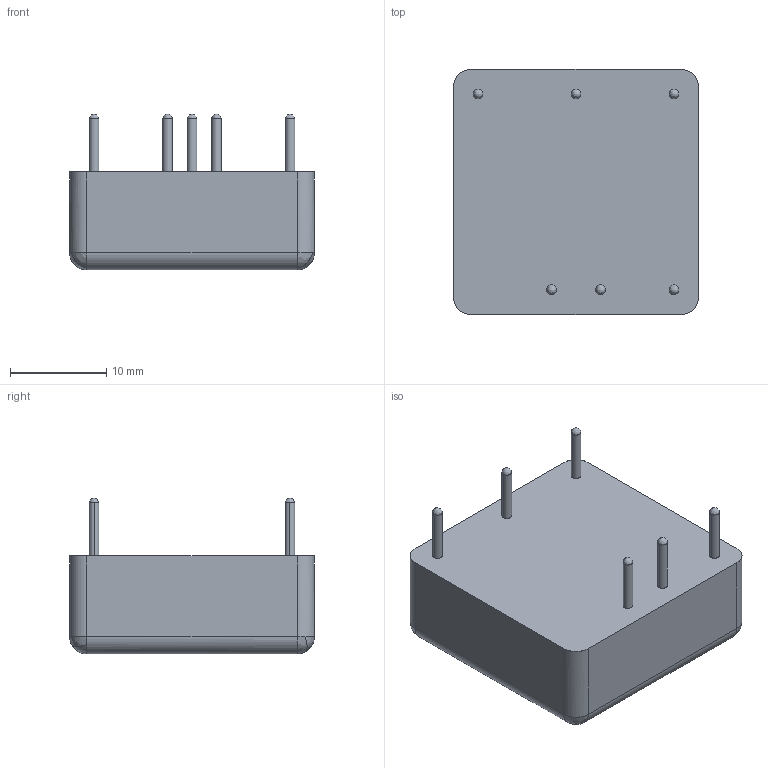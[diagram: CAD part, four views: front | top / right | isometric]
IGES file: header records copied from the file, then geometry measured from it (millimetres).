
Start section: SolidWorks IGES file using analytic representation for surfaces
Global section: file name: G:\Andrew Carter\c]]\JWK10\JWK10.IGS; native system: SolidWorks 2016; preprocessor: SolidWorks 2016; author: bhooper; date: 160822.112939; units: millimetre
Bounding box: 25.4 x 25.4 x 16.16 mm (x, y, z)
Surface area: 2316.5 mm2 (no closed solid volume)
Topology: 0 solids, 0 shells, 40 faces, 376 edges, 356 vertices
Faces by surface type: bspline 20, revolution 20
